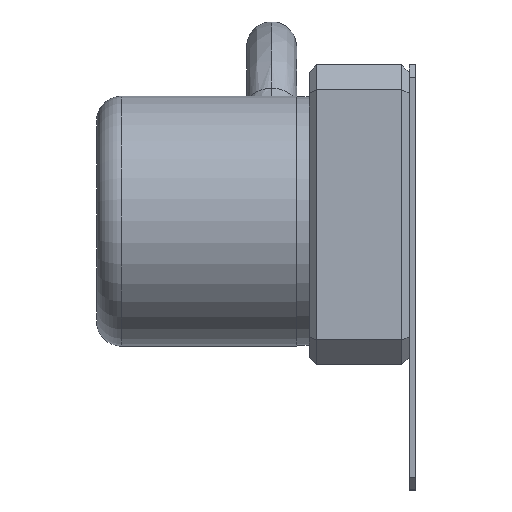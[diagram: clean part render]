
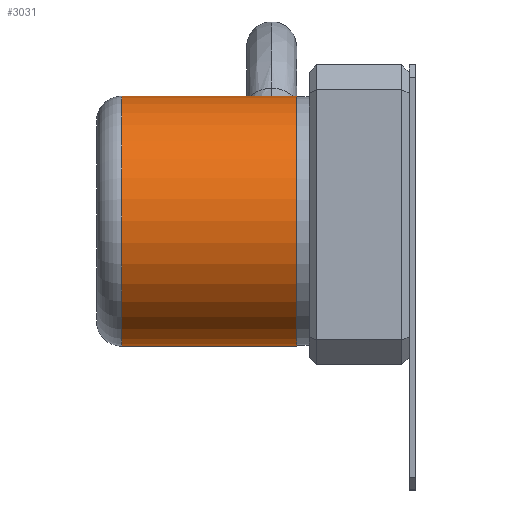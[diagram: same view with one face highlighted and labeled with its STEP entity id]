
A CAD part, left-side view. The second image highlights one B-rep face of the part: STEP entity #3031.
In plain terms, the highlighted cylindrical face has radius 10 mm (diameter 20 mm), a partial arc.
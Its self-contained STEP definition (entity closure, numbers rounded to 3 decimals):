
#22 = DIRECTION ( 'NONE',  ( 0., -1., 0. ) ) ;
#175 = VERTEX_POINT ( 'NONE', #4211 ) ;
#322 = DIRECTION ( 'NONE',  ( 0., 0., 1. ) ) ;
#325 = AXIS2_PLACEMENT_3D ( 'NONE', #1750, #4785, #322 ) ;
#512 = CARTESIAN_POINT ( 'NONE',  ( 0., 25., 0. ) ) ;
#871 = VECTOR ( 'NONE', #882, 1000. ) ;
#882 = DIRECTION ( 'NONE',  ( 0., -1., 0. ) ) ;
#930 = AXIS2_PLACEMENT_3D ( 'NONE', #4027, #22, #4117 ) ;
#1056 = ORIENTED_EDGE ( 'NONE', *, *, #1121, .F. ) ;
#1121 = EDGE_CURVE ( 'NONE', #1654, #175, #3103, .T. ) ;
#1150 = VERTEX_POINT ( 'NONE', #2392 ) ;
#1151 = EDGE_CURVE ( 'NONE', #1150, #1925, #1983, .T. ) ;
#1241 = DIRECTION ( 'NONE',  ( 0., -1., 0. ) ) ;
#1427 = ORIENTED_EDGE ( 'NONE', *, *, #3382, .T. ) ;
#1491 = VECTOR ( 'NONE', #3511, 1000. ) ;
#1654 = VERTEX_POINT ( 'NONE', #1699 ) ;
#1699 = CARTESIAN_POINT ( 'NONE',  ( 0., 23., 10. ) ) ;
#1750 = CARTESIAN_POINT ( 'NONE',  ( 0., 9., 0. ) ) ;
#1784 = CARTESIAN_POINT ( 'NONE',  ( 0., 9., -10. ) ) ;
#1785 = FACE_OUTER_BOUND ( 'NONE', #1917, .T. ) ;
#1917 = EDGE_LOOP ( 'NONE', ( #1056, #1427, #2969, #4080 ) ) ;
#1925 = VERTEX_POINT ( 'NONE', #1784 ) ;
#1983 = LINE ( 'NONE', #4585, #1491 ) ;
#2392 = CARTESIAN_POINT ( 'NONE',  ( 0., 23., -10. ) ) ;
#2771 = CYLINDRICAL_SURFACE ( 'NONE', #3880, 10. ) ;
#2796 = CIRCLE ( 'NONE', #930, 10. ) ;
#2969 = ORIENTED_EDGE ( 'NONE', *, *, #1151, .T. ) ;
#3031 = ADVANCED_FACE ( 'NONE', ( #1785 ), #2771, .T. ) ;
#3103 = LINE ( 'NONE', #4620, #871 ) ;
#3382 = EDGE_CURVE ( 'NONE', #1654, #1150, #2796, .T. ) ;
#3511 = DIRECTION ( 'NONE',  ( 0., -1., 0. ) ) ;
#3880 = AXIS2_PLACEMENT_3D ( 'NONE', #512, #1241, #4216 ) ;
#4027 = CARTESIAN_POINT ( 'NONE',  ( 0., 23., 0. ) ) ;
#4080 = ORIENTED_EDGE ( 'NONE', *, *, #4770, .T. ) ;
#4117 = DIRECTION ( 'NONE',  ( 0., 0., 1. ) ) ;
#4209 = CIRCLE ( 'NONE', #325, 10. ) ;
#4211 = CARTESIAN_POINT ( 'NONE',  ( 0., 9., 10. ) ) ;
#4216 = DIRECTION ( 'NONE',  ( 0., 0., -1. ) ) ;
#4585 = CARTESIAN_POINT ( 'NONE',  ( 0., 25., -10. ) ) ;
#4620 = CARTESIAN_POINT ( 'NONE',  ( 0., 25., 10. ) ) ;
#4770 = EDGE_CURVE ( 'NONE', #1925, #175, #4209, .T. ) ;
#4785 = DIRECTION ( 'NONE',  ( 0., 1., 0. ) ) ;
